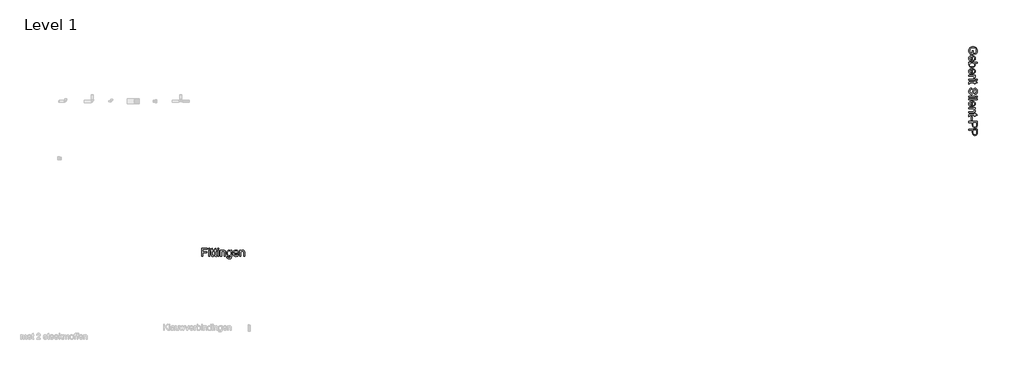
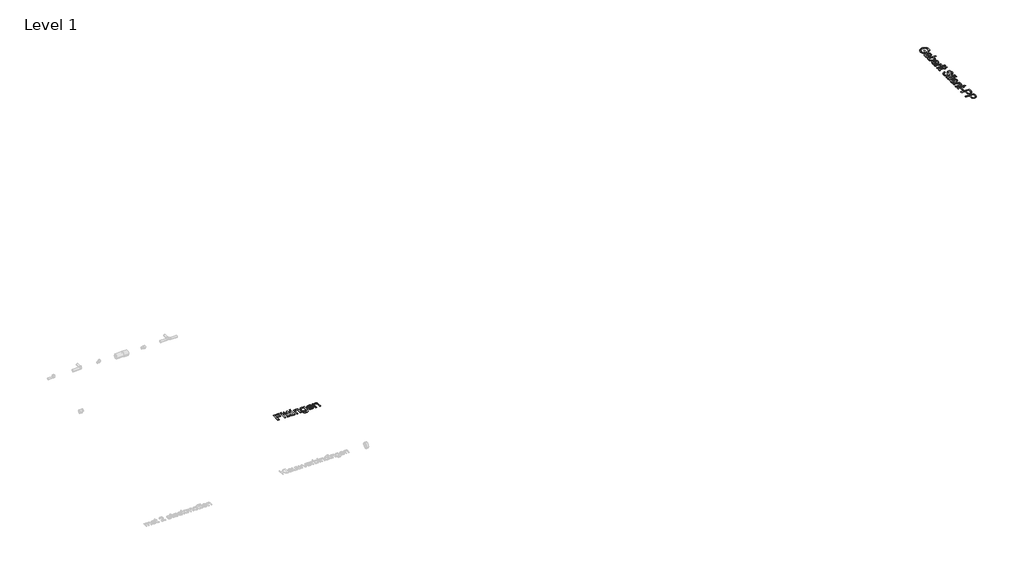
# One storey, part 6 of 6: 2 proxies.
"""IFC4 building model written with IfcOpenShell, lengths in millimetres."""

from ifc_helpers import new_model, si_unit, origin, origin_with_axes, place, context, project, spatial, polyline, outline, extrude, element, save

model = new_model("IFC4")

# Units and contexts
model_context = context("Model", 3, world=origin())
ifc_project = project(units=[si_unit("LENGTHUNIT", "METRE", prefix="MILLI")], contexts=[model_context])

# Site, building, storey
site = spatial("IfcSite", under=ifc_project)
building = spatial("IfcBuilding", under=site)
storey = spatial("IfcBuildingStorey", under=building, Name="Level 1", Elevation=0.0)

# Proxies
placement = place(None, origin())
element("IfcBuildingElementProxy", 1, Name="medium", ObjectType="medium", at=placement, inside=storey, context=model_context, shape_type="SweptSolid", body=[
    extrude(outline(polyline([(21042.0617528, 22466.5560184), (21067.1758304, 22466.5560184), (21067.1758304, 22384.9352664), (20992.0788524, 22384.9352664), (20978.2832776, 22404.7702373), (20968.3872519, 22425.2306076), (20962.4275636, 22446.2673264), (20960.4410008, 22467.8313427), (20963.5986546, 22496.0049721), (20973.071616, 22521.4685376), (20988.5287912, 22542.6217523), (21009.6390863, 22557.8643296), (21034.9616303, 22567.0797736), (21063.055552, 22570.1515882), (21091.3518088, 22567.0920363), (21117.6737656, 22557.9133805), (21139.7528167, 22542.9957656), (21155.3203564, 22522.7193363), (21164.5541945, 22498.0221917), (21167.6321405, 22469.8424309), (21165.8479128, 22449.1552), (21160.4952298, 22430.5526338), (21151.9603675, 22414.8869922), (21140.6296021, 22403.0105351), (21125.9572418, 22394.2242868), (21107.3975952, 22387.8292714), (21100.8738211, 22410.9813117), (21124.0994378, 22422.4347045), (21137.4903424, 22442.0060266), (21142.518063, 22470.2348384), (21137.0979349, 22502.3877247), (21122.8731644, 22524.2644407), (21103.5225715, 22537.1893615), (21084.564386, 22543.0754734), (21064.0856216, 22545.0375107), (21040.0690587, 22542.6769346), (21020.3076642, 22535.5952062), (21004.9424595, 22524.0069233), (20994.1144661, 22508.1266839), (20987.6949253, 22489.5425117), (20985.5550784, 22469.8424309), (20987.1676278, 22452.4477439), (20992.005276, 22435.4822525), (21005.7640626, 22410.0493439), (21042.0617528, 22410.0493439), (21042.0617528, 22466.5560184)])), origin_with_axes(), (0.0, 0.0, 1.0), 5.0),
    extrude(outline(polyline([(21007.5298962, 22243.9628859), (21004.3906365, 22219.3393176), (20985.8371212, 22228.2114051), (20971.96797, 22242.3687305), (20963.3227431, 22261.4924629), (20960.4410008, 22285.2637712), (20965.4135391, 22314.731119), (20980.331154, 22337.4049126), (21004.2250896, 22351.862675), (21036.12659, 22356.6819292), (21069.1010795, 22351.8136241), (21093.7614359, 22337.2087089), (21109.1389033, 22314.8414836), (21114.2647258, 22286.6862482), (21109.151166, 22259.4077983), (21093.8104868, 22237.6107901), (21069.1991813, 22223.3185746), (21036.2737428, 22218.5545027), (21029.5047141, 22218.7016555), (21029.5047141, 22331.5678516), (21010.7059441, 22327.2207127), (20996.8858438, 22317.122352), (20988.3877697, 22302.5480936), (20985.5550784, 22284.7732619), (20990.8035282, 22260.1496936), (20997.6093451, 22251.0016947), (21007.5298962, 22243.9628859)]), holes=[polyline([(21054.6187916, 22331.5678516), (21054.6187916, 22243.6685803), (21067.8870689, 22247.0653574), (21077.3784244, 22253.7240215), (21086.2075923, 22268.3657249), (21089.1506482, 22286.7843501), (21086.8023348, 22303.7130532), (21079.7573946, 22317.7109632), (21068.776117, 22327.4414419), (21054.6187916, 22331.5678516)])]), origin_with_axes(), (0.0, 0.0, 1.0), 5.0),
    extrude(outline(polyline([(20963.5802605, 22168.3263477), (20963.5802605, 22193.4404252), (21164.4928808, 22193.4404252), (21164.4928808, 22168.3263477), (21089.9845141, 22168.3263477), (21108.1946728, 22150.7415883), (21112.7472125, 22140.3489219), (21114.2647258, 22128.8893978), (21108.7955468, 22103.7262693), (21093.4180794, 22084.2039981), (21069.5057497, 22072.211045), (21039.5601553, 22067.8700375), (21006.0338428, 22072.3643292), (20981.0914435, 22085.8472043), (20965.6036115, 22105.6331243), (20960.4410008, 22129.0365506), (20962.1056669, 22140.8731538), (20967.0996649, 22151.3669877), (20975.4229951, 22160.5180523), (20987.0756573, 22168.3263477), (20963.5802605, 22168.3263477)]), holes=[polyline([(21038.3829329, 22168.3263477), (21017.4381846, 22166.609565), (21003.2624651, 22161.4592171), (20989.981925, 22148.3013044), (20985.5550784, 22131.1947916), (20988.8169654, 22116.700241), (20998.6026265, 22104.3148805), (21014.8507479, 22095.8168064), (21037.5000161, 22092.984115), (21060.4803781, 22095.7003104), (21076.5445585, 22103.8488966), (21085.9991258, 22115.847981), (21089.1506482, 22130.1156711), (21085.8887612, 22144.6102217), (21076.1031001, 22156.9955822), (21060.1492843, 22165.4936563), (21038.3829329, 22168.3263477)])]), origin_with_axes(), (0.0, 0.0, 1.0), 5.0),
    extrude(outline(polyline([(21007.5298962, 21936.315436), (21004.3906365, 21911.6918678), (20985.8371212, 21920.5639553), (20971.96797, 21934.7212807), (20963.3227431, 21953.8450131), (20960.4410008, 21977.6163214), (20965.4135391, 22007.0836692), (20980.331154, 22029.7574628), (21004.2250896, 22044.2152252), (21036.12659, 22049.0344793), (21069.1010795, 22044.1661743), (21093.7614359, 22029.5612591), (21109.1389033, 22007.1940338), (21114.2647258, 21979.0387984), (21109.151166, 21951.7603485), (21093.8104868, 21929.9633402), (21069.1991813, 21915.6711247), (21036.2737428, 21910.9070529), (21029.5047141, 21911.0542057), (21029.5047141, 22023.9204018), (21010.7059441, 22019.5732629), (20996.8858438, 22009.4749021), (20988.3877697, 21994.9006438), (20985.5550784, 21977.125812), (20990.8035282, 21952.5022438), (20997.6093451, 21943.3542449), (21007.5298962, 21936.315436)]), holes=[polyline([(21054.6187916, 22023.9204018), (21054.6187916, 21936.0211304), (21067.8870689, 21939.4179075), (21077.3784244, 21946.0765716), (21086.2075923, 21960.718275), (21089.1506482, 21979.1369003), (21086.8023348, 21996.0656034), (21079.7573946, 22010.0635133), (21068.776117, 22019.7939921), (21054.6187916, 22023.9204018)])]), origin_with_axes(), (0.0, 0.0, 1.0), 5.0),
    extrude(outline(polyline([(20963.5802605, 21885.7929754), (21111.1254661, 21885.7929754), (21111.1254661, 21863.8181575), (21089.297801, 21863.8181575), (21109.4086834, 21848.2199609), (21114.2647258, 21832.5236625), (21112.3272139, 21820.0156746), (21106.5146784, 21807.311483), (21084.0003003, 21815.6991925), (21089.1506482, 21833.3575283), (21084.196504, 21847.5577733), (21070.4622429, 21856.6076704), (21041.1297851, 21860.6788978), (20963.5802605, 21860.6788978), (20963.5802605, 21885.7929754)])), origin_with_axes(), (0.0, 0.0, 1.0), 5.0),
    extrude(outline(polyline([(21139.3788033, 21791.6151846), (21164.4928808, 21791.6151846), (21164.4928808, 21766.5011071), (21139.3788033, 21766.5011071), (21139.3788033, 21791.6151846)])), origin_with_axes(), (0.0, 0.0, 1.0), 5.0),
    extrude(outline(polyline([(20963.5802605, 21791.6151846), (21111.1254661, 21791.6151846), (21111.1254661, 21766.5011071), (20963.5802605, 21766.5011071), (20963.5802605, 21791.6151846)])), origin_with_axes(), (0.0, 0.0, 1.0), 5.0),
    extrude(outline(polyline([(20984.5250088, 21675.462576), (20962.8444965, 21672.3233163), (20960.4410008, 21691.1098235), (20964.6103301, 21712.1526736), (20975.5486881, 21722.6495732), (21004.04728, 21725.6907311), (21086.0113885, 21725.6907311), (21086.0113885, 21744.5262892), (21111.1254661, 21744.5262892), (21111.1254661, 21725.6907311), (21146.9816979, 21725.6907311), (21161.7460286, 21700.5766535), (21111.1254661, 21700.5766535), (21111.1254661, 21675.462576), (21086.0113885, 21675.462576), (21086.0113885, 21700.5766535), (21004.783044, 21700.5766535), (20991.8335978, 21699.2522783), (20987.2473356, 21694.9603217), (20985.5550784, 21686.400934), (20984.5250088, 21675.462576)])), origin_with_axes(), (0.0, 0.0, 1.0), 5.0),
    extrude(outline(polyline([(21032.6439738, 21578.1455255), (21032.6439738, 21553.031448), (21007.5053708, 21544.9380441), (20998.6148892, 21536.807852), (20991.6128686, 21525.1705182), (20987.0695259, 21510.9457477), (20985.5550784, 21495.0532455), (20990.1413406, 21468.8109966), (21002.7474303, 21451.8638993), (21019.5964257, 21446.2966184), (21035.2681987, 21450.4659477), (21041.4670103, 21456.8180435), (21046.6725405, 21467.5356723), (21056.2619978, 21504.1031426), (21068.6473584, 21543.4665161), (21077.0963815, 21555.9683726), (21087.3357637, 21564.8281973), (21099.1447758, 21570.1073039), (21112.3026884, 21571.8670061), (21127.0118369, 21569.690371), (21140.7277039, 21563.1604656), (21152.352775, 21552.4489682), (21160.7895354, 21537.727557), (21165.9214892, 21520.0569585), (21167.6321405, 21500.4978991), (21165.8417815, 21479.3078962), (21160.4707043, 21460.7666436), (21151.6292737, 21445.536329), (21139.4278542, 21434.2791399), (21124.6267353, 21427.154492), (21107.9862064, 21424.3218006), (21107.9862064, 21449.4358781), (21122.9712663, 21454.0466658), (21133.786997, 21463.6606486), (21140.3352965, 21478.6824968), (21142.518063, 21499.5168804), (21140.3598219, 21520.8417734), (21133.8850988, 21535.4712141), (21124.3569552, 21543.9325), (21113.0384524, 21546.7529286), (21103.3876814, 21544.7541031), (21095.6253713, 21538.7576266), (21088.6846644, 21524.581907), (21081.5968046, 21497.7510468), (21068.9907149, 21453.3109018), (21059.8795041, 21438.9941608), (21048.6345778, 21429.0061647), (21035.3785633, 21423.1384469), (21020.2340878, 21421.1825409), (21004.7523872, 21423.4327524), (20990.1903915, 21430.1833871), (20977.6578782, 21441.1585333), (20968.2646246, 21456.0822795), (20962.3969068, 21474.0287895), (20960.4410008, 21494.0722269), (20962.5501909, 21518.677401), (20968.8777613, 21538.9293048), (20979.4482373, 21555.0609303), (20994.2861444, 21567.3052694), (21012.3614131, 21575.1656814), (21032.6439738, 21578.1455255)])), origin_with_axes(), (0.0, 0.0, 1.0), 5.0),
    extrude(outline(polyline([(20963.5802605, 21386.6506843), (21111.1254661, 21386.6506843), (21111.1254661, 21361.5366068), (20963.5802605, 21361.5366068), (20963.5802605, 21386.6506843)])), origin_with_axes(), (0.0, 0.0, 1.0), 5.0),
    extrude(outline(polyline([(21139.3788033, 21386.6506843), (21164.4928808, 21386.6506843), (21164.4928808, 21361.5366068), (21139.3788033, 21361.5366068), (21139.3788033, 21386.6506843)])), origin_with_axes(), (0.0, 0.0, 1.0), 5.0),
    extrude(outline(polyline([(20963.5802605, 21323.8654905), (21164.4928808, 21323.8654905), (21164.4928808, 21298.7514129), (20963.5802605, 21298.7514129), (20963.5802605, 21323.8654905)])), origin_with_axes(), (0.0, 0.0, 1.0), 5.0),
    extrude(outline(polyline([(21007.5298962, 21157.7790324), (21004.3906365, 21133.1554642), (20985.8371212, 21142.0275516), (20971.96797, 21156.1848771), (20963.3227431, 21175.3086094), (20960.4410008, 21199.0799177), (20965.4135391, 21228.5472655), (20980.331154, 21251.2210591), (21004.2250896, 21265.6788216), (21036.12659, 21270.4980757), (21069.1010795, 21265.6297706), (21093.7614359, 21251.0248554), (21109.1389033, 21228.6576301), (21114.2647258, 21200.5023947), (21109.151166, 21173.2239448), (21093.8104868, 21151.4269366), (21069.1991813, 21137.1347211), (21036.2737428, 21132.3706492), (21029.5047141, 21132.517802), (21029.5047141, 21245.3839982), (21010.7059441, 21241.0368592), (20996.8858438, 21230.9384985), (20988.3877697, 21216.3642401), (20985.5550784, 21198.5894084), (20990.8035282, 21173.9658402), (20997.6093451, 21164.8178412), (21007.5298962, 21157.7790324)]), holes=[polyline([(21054.6187916, 21245.3839982), (21054.6187916, 21157.4847268), (21067.8870689, 21160.8815039), (21077.3784244, 21167.540168), (21086.2075923, 21182.1818714), (21089.1506482, 21200.6004966), (21086.8023348, 21217.5291997), (21079.7573946, 21231.5271097), (21068.776117, 21241.2575884), (21054.6187916, 21245.3839982)])]), origin_with_axes(), (0.0, 0.0, 1.0), 5.0),
    extrude(outline(polyline([(20963.5802605, 21107.2565717), (21111.1254661, 21107.2565717), (21111.1254661, 21082.1424942), (21090.5240743, 21082.1424942), (21100.9106093, 21073.4175595), (21108.3295629, 21062.939054), (21112.780935, 21050.7069777), (21114.2647258, 21036.7213305), (21109.4822598, 21013.0052045), (21096.925221, 20996.8183967), (21078.4575449, 20989.2890786), (21054.1773332, 20987.9647034), (20963.5802605, 20987.9647034), (20963.5802605, 21013.0787809), (21050.7928189, 21013.0787809), (21073.0128914, 21015.972786), (21084.7605897, 21026.1999054), (21089.1506482, 21043.4413083), (21086.6858388, 21058.1504567), (21079.2914107, 21070.6891014), (21065.0053266, 21079.279146), (21041.8655491, 21082.1424942), (20963.5802605, 21082.1424942), (20963.5802605, 21107.2565717)])), origin_with_axes(), (0.0, 0.0, 1.0), 5.0),
    extrude(outline(polyline([(20984.5250088, 20900.065432), (20962.8444965, 20896.9261723), (20960.4410008, 20915.7126795), (20964.6103301, 20936.7555297), (20975.5486881, 20947.2524293), (21004.04728, 20950.2935871), (21086.0113885, 20950.2935871), (21086.0113885, 20969.1291452), (21111.1254661, 20969.1291452), (21111.1254661, 20950.2935871), (21146.9816979, 20950.2935871), (21161.7460286, 20925.1795095), (21111.1254661, 20925.1795095), (21111.1254661, 20900.065432), (21086.0113885, 20900.065432), (21086.0113885, 20925.1795095), (21004.783044, 20925.1795095), (20991.8335978, 20923.8551344), (20987.2473356, 20919.5631778), (20985.5550784, 20911.00379), (20984.5250088, 20900.065432)])), origin_with_axes(), (0.0, 0.0, 1.0), 5.0),
    extrude(outline(polyline([(21023.2261947, 20887.5083932), (21048.3402722, 20887.5083932), (21048.3402722, 20809.0269009), (21023.2261947, 20809.0269009), (21023.2261947, 20887.5083932)])), origin_with_axes(), (0.0, 0.0, 1.0), 5.0),
    extrude(outline(polyline([(20963.5802605, 20777.634304), (21164.4928808, 20777.634304), (21164.4928808, 20703.1749882), (21162.5798945, 20673.1558174), (21153.1866408, 20648.7529784), (21144.860245, 20639.8808909), (21133.7624715, 20632.9340526), (21120.6720038, 20628.4458922), (21106.3675256, 20626.9498388), (21082.6881878, 20630.9904094), (21062.9574502, 20643.1121211), (21055.1890087, 20652.8196073), (21049.6401219, 20665.7797834), (21045.2010125, 20701.4582055), (21045.2010125, 20752.5202265), (20963.5802605, 20752.5202265), (20963.5802605, 20777.634304)]), holes=[polyline([(21070.3150901, 20752.5202265), (21070.3150901, 20699.9866776), (21072.6204839, 20677.7175541), (21079.5366654, 20663.0022743), (21090.6344389, 20654.7985058), (21105.4846088, 20652.0639163), (21116.7663233, 20653.6764657), (21126.2822043, 20658.514114), (21133.4436404, 20665.9759871), (21137.6620206, 20675.4612112), (21139.3788033, 20700.5752888), (21139.3788033, 20752.5202265), (21070.3150901, 20752.5202265)])]), origin_with_axes(), (0.0, 0.0, 1.0), 5.0),
    extrude(outline(polyline([(20963.5802605, 20592.4179822), (21164.4928808, 20592.4179822), (21164.4928808, 20517.9586664), (21162.5798945, 20487.9394955), (21153.1866408, 20463.5366565), (21144.860245, 20454.6645691), (21133.7624715, 20447.7177307), (21120.6720038, 20443.2295704), (21106.3675256, 20441.733517), (21082.6881878, 20445.7740875), (21062.9574502, 20457.8957993), (21055.1890087, 20467.6032854), (21049.6401219, 20480.5634615), (21045.2010125, 20516.2418837), (21045.2010125, 20567.3039046), (20963.5802605, 20567.3039046), (20963.5802605, 20592.4179822)]), holes=[polyline([(21070.3150901, 20567.3039046), (21070.3150901, 20514.7703557), (21072.6204839, 20492.5012323), (21079.5366654, 20477.7859525), (21090.6344389, 20469.582184), (21105.4846088, 20466.8475945), (21116.7663233, 20468.4601439), (21126.2822043, 20473.2977921), (21133.4436404, 20480.7596653), (21137.6620206, 20490.2448894), (21139.3788033, 20515.3589669), (21139.3788033, 20567.3039046), (21070.3150901, 20567.3039046)])]), origin_with_axes(), (0.0, 0.0, 1.0), 5.0),
])
element("IfcBuildingElementProxy", 2, Name="medium", ObjectType="medium", at=placement, inside=storey, context=model_context, shape_type="SweptSolid", body=[
    extrude(outline(polyline([(2613.9790812, 17550.7987769), (2613.9790812, 17751.7113972), (2748.9672479, 17751.7113972), (2748.9672479, 17726.5973196), (2639.0931587, 17726.5973196), (2639.0931587, 17666.9513855), (2733.2709495, 17666.9513855), (2733.2709495, 17641.8373079), (2639.0931587, 17641.8373079), (2639.0931587, 17550.7987769), (2613.9790812, 17550.7987769)])), origin_with_axes(), (0.0, 0.0, 1.0), 5.0),
    extrude(outline(polyline([(2780.3598448, 17726.5973196), (2780.3598448, 17751.7113972), (2805.4739224, 17751.7113972), (2805.4739224, 17726.5973196), (2780.3598448, 17726.5973196)])), origin_with_axes(), (0.0, 0.0, 1.0), 5.0),
    extrude(outline(polyline([(2780.3598448, 17550.7987769), (2780.3598448, 17698.3439824), (2805.4739224, 17698.3439824), (2805.4739224, 17550.7987769), (2780.3598448, 17550.7987769)])), origin_with_axes(), (0.0, 0.0, 1.0), 5.0),
    extrude(outline(polyline([(2896.5124535, 17571.7435251), (2899.6517132, 17550.0630129), (2880.8652059, 17547.6595172), (2859.8223558, 17551.8288465), (2849.3254562, 17562.7672044), (2846.2842984, 17591.2657963), (2846.2842984, 17673.2299049), (2827.4487402, 17673.2299049), (2827.4487402, 17698.3439824), (2846.2842984, 17698.3439824), (2846.2842984, 17734.2002142), (2871.3983759, 17748.9645449), (2871.3983759, 17698.3439824), (2896.5124535, 17698.3439824), (2896.5124535, 17673.2299049), (2871.3983759, 17673.2299049), (2871.3983759, 17592.0015603), (2872.7227511, 17579.0521141), (2877.0147077, 17574.4658519), (2885.5740955, 17572.7735947), (2896.5124535, 17571.7435251)])), origin_with_axes(), (0.0, 0.0, 1.0), 5.0),
    extrude(outline(polyline([(2974.9939458, 17571.7435251), (2978.1332055, 17550.0630129), (2959.3466982, 17547.6595172), (2938.3038481, 17551.8288465), (2927.8069485, 17562.7672044), (2924.7657907, 17591.2657963), (2924.7657907, 17673.2299049), (2905.9302325, 17673.2299049), (2905.9302325, 17698.3439824), (2924.7657907, 17698.3439824), (2924.7657907, 17734.2002142), (2949.8798682, 17748.9645449), (2949.8798682, 17698.3439824), (2974.9939458, 17698.3439824), (2974.9939458, 17673.2299049), (2949.8798682, 17673.2299049), (2949.8798682, 17592.0015603), (2951.2042434, 17579.0521141), (2955.4962, 17574.4658519), (2964.0555878, 17572.7735947), (2974.9939458, 17571.7435251)])), origin_with_axes(), (0.0, 0.0, 1.0), 5.0),
    extrude(outline(polyline([(3000.1080233, 17726.5973196), (3000.1080233, 17751.7113972), (3025.2221008, 17751.7113972), (3025.2221008, 17726.5973196), (3000.1080233, 17726.5973196)])), origin_with_axes(), (0.0, 0.0, 1.0), 5.0),
    extrude(outline(polyline([(3000.1080233, 17550.7987769), (3000.1080233, 17698.3439824), (3025.2221008, 17698.3439824), (3025.2221008, 17550.7987769), (3000.1080233, 17550.7987769)])), origin_with_axes(), (0.0, 0.0, 1.0), 5.0),
    extrude(outline(polyline([(3062.8932171, 17550.7987769), (3062.8932171, 17698.3439824), (3088.0072947, 17698.3439824), (3088.0072947, 17677.7425907), (3096.7322293, 17688.1291257), (3107.2107348, 17695.5480792), (3119.4428112, 17699.9994514), (3133.4284584, 17701.4832421), (3157.1445843, 17696.7007762), (3173.3313921, 17684.1437374), (3180.8607103, 17665.6760612), (3182.1850854, 17641.3958495), (3182.1850854, 17550.7987769), (3157.0710079, 17550.7987769), (3157.0710079, 17638.0113352), (3154.1770029, 17660.2314077), (3143.9498834, 17671.9791061), (3126.7084806, 17676.3691646), (3111.9993321, 17673.9043552), (3099.4606875, 17666.5099271), (3090.8706429, 17652.2238429), (3088.0072947, 17629.0840654), (3088.0072947, 17550.7987769), (3062.8932171, 17550.7987769)])), origin_with_axes(), (0.0, 0.0, 1.0), 5.0),
    extrude(outline(polyline([(3210.4384227, 17538.2417381), (3235.5525002, 17535.1024784), (3238.3238779, 17527.2543292), (3243.694955, 17521.8587266), (3254.2531683, 17517.6648718), (3268.0732686, 17516.2669203), (3282.8130739, 17517.8488128), (3293.7759573, 17522.5944906), (3301.3788519, 17530.1973851), (3306.0386905, 17540.3509282), (3307.7554731, 17569.634335), (3290.0726119, 17555.5076664), (3268.514727, 17550.7987769), (3242.6219659, 17556.2802186), (3223.3142925, 17572.7245438), (3211.3029454, 17596.8330772), (3207.299163, 17625.3071436), (3209.0956534, 17645.5835729), (3214.4851246, 17664.2290587), (3223.2775043, 17680.0295904), (3235.2827201, 17691.7711574), (3250.0899704, 17699.0552209), (3267.2884537, 17701.4832421), (3289.6924672, 17695.9895376), (3307.7554731, 17679.5084242), (3307.7554731, 17698.3439824), (3332.8695507, 17698.3439824), (3332.8695507, 17570.9587102), (3331.152768, 17541.5465447), (3326.0024201, 17522.1775576), (3317.1303326, 17509.3323446), (3304.2483314, 17499.4915013), (3287.6384594, 17493.2375074), (3267.5827593, 17491.1528427), (3244.2161212, 17494.0897673), (3225.8158901, 17502.9005411), (3214.0130094, 17517.6096895), (3210.4384227, 17538.2417381)]), holes=[polyline([(3232.4132405, 17627.0239263), (3235.0926477, 17603.988382), (3243.1308693, 17588.1510621), (3255.2157929, 17578.9724063), (3270.0353059, 17575.9128544), (3284.7444543, 17578.9540122), (3296.8906915, 17588.0774857), (3305.0392777, 17603.7124705), (3307.7554731, 17626.2881623), (3304.95957, 17648.060645), (3296.5718605, 17663.7385494), (3284.2478136, 17673.2115108), (3269.6428984, 17676.3691646), (3255.301632, 17673.2605617), (3243.2780221, 17663.9347531), (3235.1294359, 17648.4898407), (3232.4132405, 17627.0239263)])]), origin_with_axes(), (0.0, 0.0, 1.0), 5.0),
    extrude(outline(polyline([(3473.8419312, 17594.7484126), (3498.4654994, 17591.6091529), (3489.593412, 17573.0556376), (3475.4360865, 17559.1864864), (3456.3123542, 17550.5412595), (3432.5410459, 17547.6595172), (3403.0736981, 17552.6320555), (3380.3999044, 17567.5496704), (3365.942142, 17591.443606), (3361.1228879, 17623.3451063), (3365.991193, 17656.3195958), (3380.5961082, 17680.9799522), (3402.9633335, 17696.3574196), (3431.1185689, 17701.4832421), (3458.3970188, 17696.3696824), (3480.194027, 17681.0290032), (3494.4862425, 17656.4176977), (3499.2503144, 17623.4922591), (3499.1031616, 17616.7232304), (3386.2369654, 17616.7232304), (3390.5841043, 17597.9244604), (3400.6824651, 17584.1043602), (3415.2567235, 17575.6062861), (3433.0315552, 17572.7735947), (3457.6551234, 17578.0220445), (3466.8031224, 17584.8278614), (3473.8419312, 17594.7484126)]), holes=[polyline([(3386.2369654, 17641.8373079), (3474.1362368, 17641.8373079), (3470.7394597, 17655.1055852), (3464.0807956, 17664.5969407), (3449.4390922, 17673.4261086), (3431.020467, 17676.3691646), (3414.0917638, 17674.0208511), (3400.0938539, 17666.9759109), (3390.3633752, 17655.9946334), (3386.2369654, 17641.8373079)])]), origin_with_axes(), (0.0, 0.0, 1.0), 5.0),
    extrude(outline(polyline([(3524.3643919, 17550.7987769), (3524.3643919, 17698.3439824), (3549.4784694, 17698.3439824), (3549.4784694, 17677.7425907), (3558.2034041, 17688.1291257), (3568.6819096, 17695.5480792), (3580.9139859, 17699.9994514), (3594.8996331, 17701.4832421), (3618.6157591, 17696.7007762), (3634.8025668, 17684.1437374), (3642.331885, 17665.6760612), (3643.6562602, 17641.3958495), (3643.6562602, 17550.7987769), (3618.5421827, 17550.7987769), (3618.5421827, 17638.0113352), (3615.6481776, 17660.2314077), (3605.4210582, 17671.9791061), (3588.1796553, 17676.3691646), (3573.4705069, 17673.9043552), (3560.9318622, 17666.5099271), (3552.3418176, 17652.2238429), (3549.4784694, 17629.0840654), (3549.4784694, 17550.7987769), (3524.3643919, 17550.7987769)])), origin_with_axes(), (0.0, 0.0, 1.0), 5.0),
])

save(model, "model.ifc")
